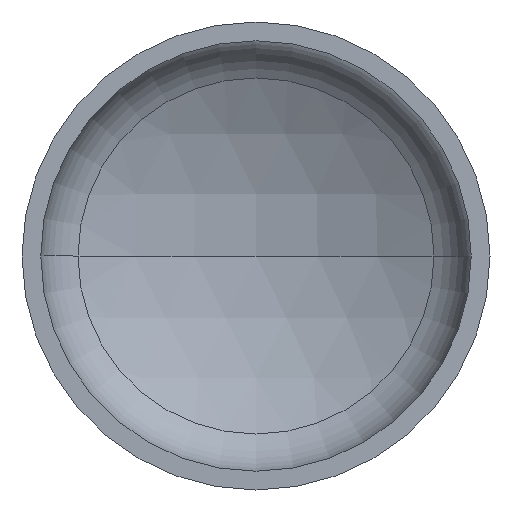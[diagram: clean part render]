
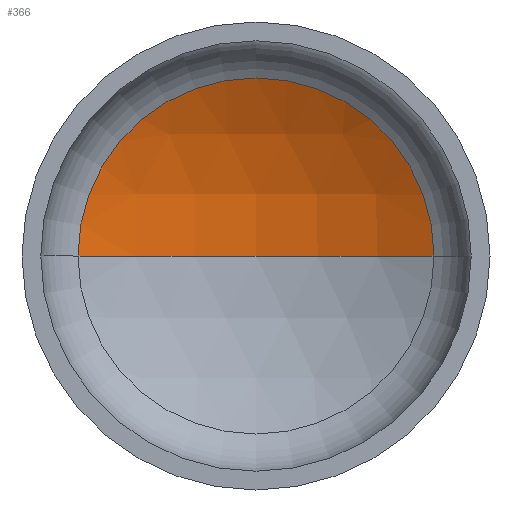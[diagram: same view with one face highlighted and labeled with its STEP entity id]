
A CAD part, front view. The second image highlights one B-rep face of the part: STEP entity #366.
In plain terms, the highlighted spherical face has radius 254 mm.
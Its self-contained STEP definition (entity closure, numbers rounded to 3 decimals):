
#17 = VERTEX_POINT ( 'NONE', #291 ) ;
#19 = EDGE_LOOP ( 'NONE', ( #112, #52, #44 ) ) ;
#28 = VERTEX_POINT ( 'NONE', #41 ) ;
#38 = AXIS2_PLACEMENT_3D ( 'NONE', #171, #405, #342 ) ;
#41 = CARTESIAN_POINT ( 'NONE',  ( 123.202, 83.724, 0. ) ) ;
#44 = ORIENTED_EDGE ( 'NONE', *, *, #202, .T. ) ;
#52 = ORIENTED_EDGE ( 'NONE', *, *, #204, .T. ) ;
#61 = CIRCLE ( 'NONE', #87, 254. ) ;
#85 = VERTEX_POINT ( 'NONE', #290 ) ;
#87 = AXIS2_PLACEMENT_3D ( 'NONE', #249, #248, #247 ) ;
#91 = AXIS2_PLACEMENT_3D ( 'NONE', #260, #258, #284 ) ;
#96 = AXIS2_PLACEMENT_3D ( 'NONE', #211, #227, #224 ) ;
#112 = ORIENTED_EDGE ( 'NONE', *, *, #205, .F. ) ;
#171 = CARTESIAN_POINT ( 'NONE',  ( 0., -138.395, 0. ) ) ;
#202 = EDGE_CURVE ( 'NONE', #28, #17, #328, .T. ) ;
#204 = EDGE_CURVE ( 'NONE', #85, #28, #269, .T. ) ;
#205 = EDGE_CURVE ( 'NONE', #85, #17, #61, .T. ) ;
#211 = CARTESIAN_POINT ( 'NONE',  ( 0., 83.724, 0. ) ) ;
#224 = DIRECTION ( 'NONE',  ( 1., 0., 0. ) ) ;
#227 = DIRECTION ( 'NONE',  ( 0., -1., 0. ) ) ;
#247 = DIRECTION ( 'NONE',  ( 1., 0., 0. ) ) ;
#248 = DIRECTION ( 'NONE',  ( 0., 0., 1. ) ) ;
#249 = CARTESIAN_POINT ( 'NONE',  ( 0., -138.395, 0. ) ) ;
#258 = DIRECTION ( 'NONE',  ( 0., 0., -1. ) ) ;
#260 = CARTESIAN_POINT ( 'NONE',  ( 0., -138.395, 0. ) ) ;
#269 = CIRCLE ( 'NONE', #91, 254. ) ;
#284 = DIRECTION ( 'NONE',  ( -1., 0., 0. ) ) ;
#290 = CARTESIAN_POINT ( 'NONE',  ( 0., 115.605, 0. ) ) ;
#291 = CARTESIAN_POINT ( 'NONE',  ( -123.202, 83.724, 0. ) ) ;
#292 = SPHERICAL_SURFACE ( 'NONE', #38, 254. ) ;
#315 = FACE_OUTER_BOUND ( 'NONE', #19, .T. ) ;
#328 = CIRCLE ( 'NONE', #96, 123.202 ) ;
#342 = DIRECTION ( 'NONE',  ( -1., 0., 0. ) ) ;
#366 = ADVANCED_FACE ( 'NONE', ( #315 ), #292, .F. ) ;
#405 = DIRECTION ( 'NONE',  ( 0., 0., -1. ) ) ;
